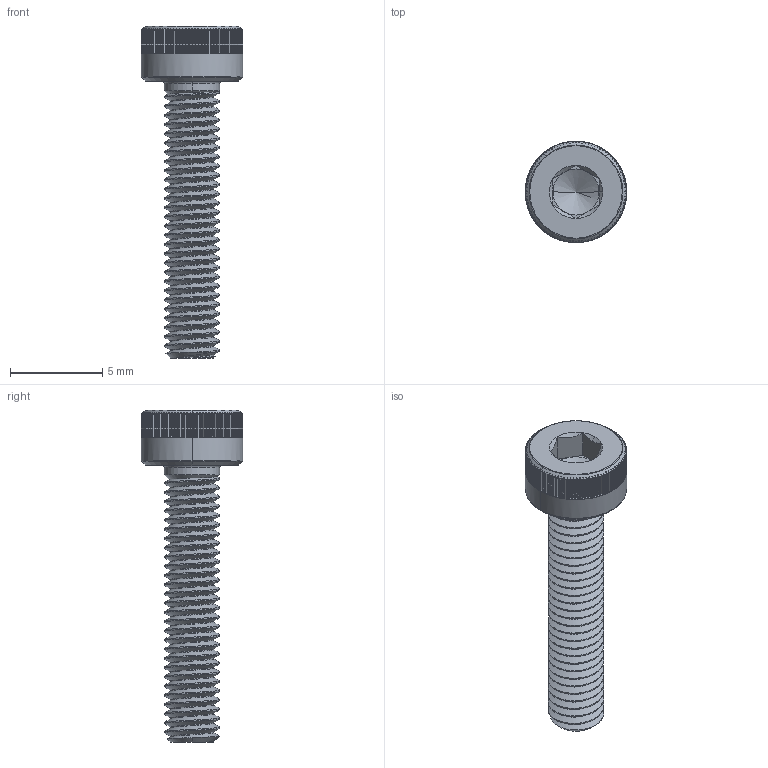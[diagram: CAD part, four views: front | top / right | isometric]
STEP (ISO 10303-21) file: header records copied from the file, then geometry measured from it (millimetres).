
FILE_DESCRIPTION (( 'STEP AP203' ), '1' );
FILE_NAME ('90128A331_Zinc-Plated Alloy Steel Socket Head Screw.STEP', '2022-11-29T18:28:38', ( 'Administrator' ), ( 'Managed by Terraform' ), 'SwSTEP 2.0', 'SolidWorks 2017', '' );
FILE_SCHEMA (( 'CONFIG_CONTROL_DESIGN' ));
Products named in the file (1): 90128A331_Zinc-Plated Alloy Steel Socket Head Screw
Bounding box: 5.5 x 5.5 x 18 mm (x, y, z)
Volume: 146.3 mm3; surface area: 333.7 mm2
Topology: 1 solids, 1 shells, 1870 faces, 4388 edges, 2422 vertices
Faces by surface type: bspline 983, cylinder 354, plane 211, torus 205, cone 117
Entity records: 82735 total; most frequent: CARTESIAN_POINT 48120, ORIENTED_EDGE 8576, DIRECTION 5491, EDGE_CURVE 4288, VERTEX_POINT 2422, AXIS2_PLACEMENT_3D 2407, B_SPLINE_CURVE_WITH_KNOTS 1976, EDGE_LOOP 1872
